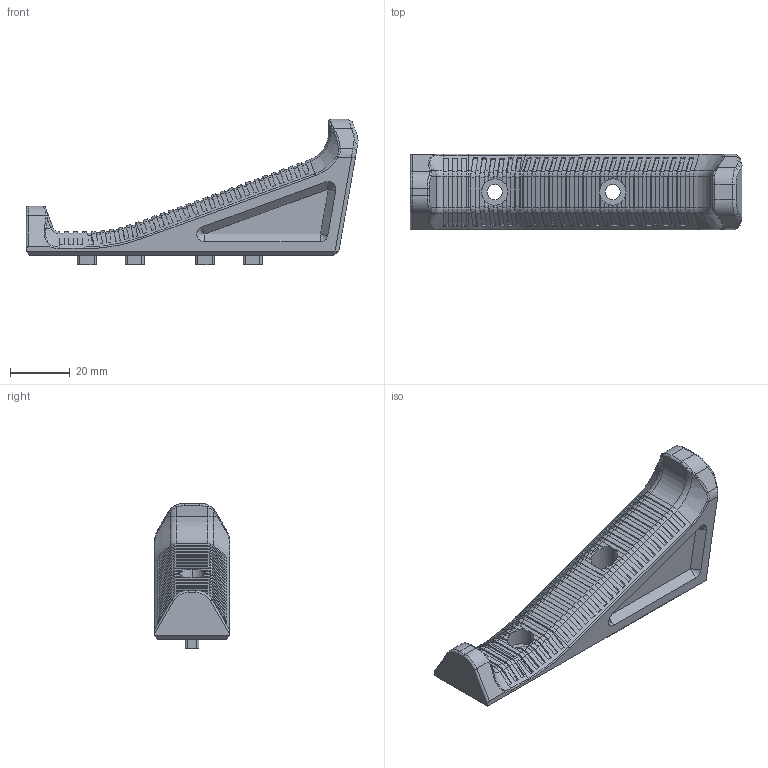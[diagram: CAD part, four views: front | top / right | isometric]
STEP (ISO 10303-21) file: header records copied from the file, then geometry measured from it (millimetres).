
FILE_DESCRIPTION (( 'STEP AP214' ), '1' );
FILE_NAME ('M_Lock AFG with Locators Large Hands.STEP', '2019-01-21T17:27:42', ( '' ), ( '' ), 'SwSTEP 2.0', 'SolidWorks 2013', '' );
FILE_SCHEMA (( 'AUTOMOTIVE_DESIGN' ));
Length unit declared in the file: inch
Products named in the file (1): M_Lock AFG with Locators Large Hands
Bounding box: 111.45 x 25.4 x 48.9 mm (x, y, z)
Volume: 45754.9 mm3; surface area: 12320.6 mm2
Topology: 1 solids, 1 shells, 591 faces, 1623 edges, 1033 vertices
Faces by surface type: plane 317, cylinder 175, torus 40, cone 37, bspline 22
Entity records: 19364 total; most frequent: CARTESIAN_POINT 4638, ORIENTED_EDGE 3232, DIRECTION 2929, EDGE_CURVE 1616, VERTEX_POINT 1033, VECTOR 991, LINE 991, AXIS2_PLACEMENT_3D 969
